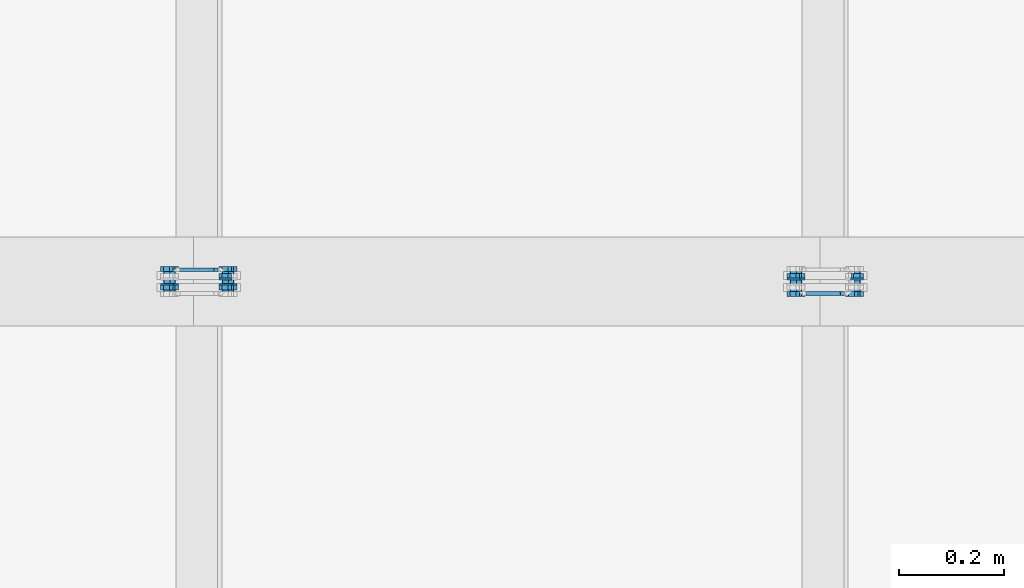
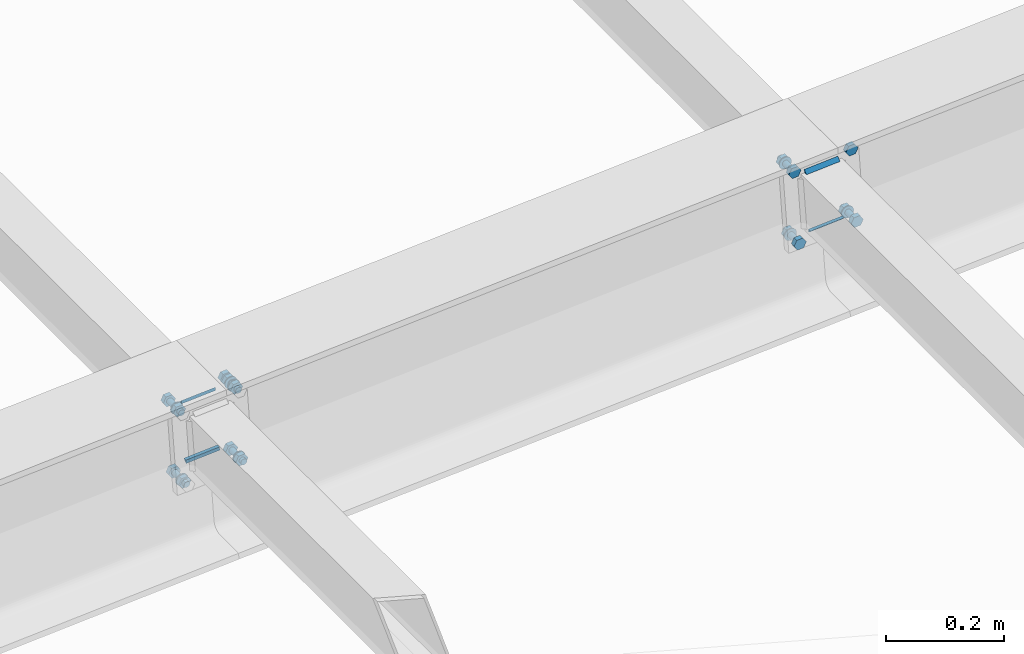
# One storey, part 40 of 72: 31 mechanical fasteners, 8 fasteners.
"""IFC4 building model written with IfcOpenShell, lengths in metres."""

from ifc_helpers import new_model, si_unit, frame, origin_with_axes, place, context, project, spatial, polyline, outline, extrude, type_object, element, save


model = new_model("IFC4")

# Units and contexts
model_context = context("Model", 3, precision=1e-05, world=origin_with_axes())
ifc_project = project(units=[si_unit("LENGTHUNIT", "METRE"), si_unit("AREAUNIT", "SQUARE_METRE"), si_unit("VOLUMEUNIT", "CUBIC_METRE"), si_unit("MASSUNIT", "GRAM", prefix="KILO"), si_unit("TIMEUNIT", "SECOND"), si_unit("PLANEANGLEUNIT", "RADIAN"), si_unit("SOLIDANGLEUNIT", "STERADIAN"), si_unit("THERMODYNAMICTEMPERATUREUNIT", "DEGREE_CELSIUS")], contexts=[model_context])

# Site, building, storey
placement_1 = place(None, origin_with_axes())
site = spatial("IfcSite", under=ifc_project, at=placement_1, Name="Italia", CompositionType="ELEMENT")
building = spatial("IfcBuilding", under=site, at=placement_1, Name="Pensilina", CompositionType="ELEMENT")
storey = spatial("IfcBuildingStorey", under=building, at=placement_1, Name="Storey 0", CompositionType="ELEMENT", Elevation=0.0)

# Mechanical fasteners
mechanical_fastener_type_1 = type_object("IfcMechanicalFastenerType", Name="Collegamento 0402_0401", PredefinedType="BOLT")
placement_2 = place(placement_1, origin_with_axes())
mechanical_fastener_1_placement = place(placement_2, origin_with_axes())
element("IfcMechanicalFastener", 1, at=mechanical_fastener_1_placement, inside=storey, type_object=mechanical_fastener_type_1, Name="Collegamento 0402_0401", NominalDiameter=0.0119998, context=model_context, shape_type="SweptSolid", body=[
    extrude(outline(polyline([(0.0, 0.0, 0.0), (-0.0119727, -0.000808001, 0.0), (-0.0186586, 0.00915694, 0.0), (-0.0133719, 0.0199294, 0.0), (-0.00139904, 0.0207374, 0.0), (0.00528693, 0.0107725, 0.0), (0.0, 0.0, 0.0)])), frame((3.47284, 5.2956, 3.93071), z_axis=(0.0, -1.0, 0.0), x_axis=(1.0, 0.0, 0.0)), (0.0, 0.0, 1.0), 0.00959969),
])
mechanical_fastener_type_2 = type_object("IfcMechanicalFastenerType", Name="Collegamento 0402_0401", PredefinedType="BOLT")
mechanical_fastener_2_placement = place(placement_2, origin_with_axes())
element("IfcMechanicalFastener", 2, at=mechanical_fastener_2_placement, inside=storey, type_object=mechanical_fastener_type_2, Name="Collegamento 0402_0401", NominalDiameter=0.024, context=model_context, shape_type="SweptSolid", body=[
    extrude(outline(polyline([(0.0, 0.0, 0.0), (-0.000408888, -0.00310588, 0.0), (-0.00160789, -0.00600004, 0.0), (-0.00351477, -0.00848532, 0.0), (-0.00600004, -0.0103922, 0.0), (-0.00889421, -0.0115912, 0.0), (-0.0120001, -0.0120001, 0.0), (-0.015106, -0.0115912, 0.0), (-0.0180001, -0.0103922, 0.0), (-0.0204854, -0.00848532, 0.0), (-0.0223923, -0.00600004, 0.0), (-0.0235913, -0.00310588, 0.0), (-0.0240002, 0.0, 0.0), (-0.0235913, 0.00310588, 0.0), (-0.0223923, 0.00600004, 0.0), (-0.0204854, 0.00848532, 0.0), (-0.0180001, 0.0103922, 0.0), (-0.015106, 0.0115912, 0.0), (-0.0120001, 0.0120001, 0.0), (-0.00889421, 0.0115912, 0.0), (-0.00600004, 0.0103922, 0.0), (-0.00351477, 0.00848532, 0.0), (-0.00160789, 0.00600004, 0.0), (-0.000408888, 0.00310588, 0.0), (0.0, 0.0, 0.0)])), frame((3.47816, 5.286, 3.94067), z_axis=(0.0, -1.0, 0.0), x_axis=(1.0, 0.0, 0.0)), (0.0, 0.0, 1.0), 0.00200033),
])

# Fasteners
fastener_type_1 = type_object("IfcFastenerType", Name="Collegamento 0402_0403", PredefinedType="WELD")
fastener_1_placement = place(placement_2, origin_with_axes())
element("IfcFastener", 3, at=fastener_1_placement, inside=storey, type_object=fastener_type_1, Name="Collegamento 0402_0403", context=model_context, shape_type="SweptSolid", body=[
    extrude(outline(polyline([(0.0, 0.0, 0.0), (0.00717354, -0.00695801, 0.0), (0.0, -0.00695801, 0.0), (0.0, 0.0, 0.0)])), frame((3.37792, 5.29895, 3.92561), z_axis=(0.997731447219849, 0.0, 0.067320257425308), x_axis=(0.0, 1.0, 0.0)), (0.0, 0.0, 1.0), 0.0660996),
])
fastener_type_2 = type_object("IfcFastenerType", Name="Collegamento 0402_0403", PredefinedType="WELD")
fastener_2_placement = place(placement_2, origin_with_axes())
element("IfcFastener", 4, at=fastener_2_placement, inside=storey, type_object=fastener_type_2, Name="Collegamento 0402_0403", context=model_context, shape_type="SweptSolid", body=[
    extrude(outline(polyline([(0.0, 0.0, 0.0), (-0.00717354, 0.00695825, 0.0), (0.0, 0.00695825, 0.0), (0.0, 0.0, 0.0)])), frame((3.45288, 5.29895, 3.79654), z_axis=(-0.997731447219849, 0.0, -0.067320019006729), x_axis=(0.0, -1.0, 0.0)), (0.0, 0.0, 1.0), 0.0660999),
])
fastener_type_3 = type_object("IfcFastenerType", Name="Collegamento 0402_0403", PredefinedType="WELD")
fastener_3_placement = place(placement_2, origin_with_axes())
element("IfcFastener", 5, at=fastener_3_placement, inside=storey, type_object=fastener_type_3, Name="Collegamento 0402_0403", context=model_context, shape_type="SweptSolid", body=[
    extrude(outline(polyline([(0.0, 0.0, 0.0), (0.00717354, -0.00695801, 0.0), (0.0, -0.00695801, 0.0), (0.0, 0.0, 0.0)])), frame((3.37792, 5.29895, 3.92561), z_axis=(0.997731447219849, 0.0, 0.067320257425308), x_axis=(0.0, 1.0, 0.0)), (0.0, 0.0, 1.0), 0.0660996),
])
fastener_type_4 = type_object("IfcFastenerType", Name="Collegamento 0402_0403", PredefinedType="WELD")
fastener_4_placement = place(placement_2, origin_with_axes())
element("IfcFastener", 6, at=fastener_4_placement, inside=storey, type_object=fastener_type_4, Name="Collegamento 0402_0403", context=model_context, shape_type="SweptSolid", body=[
    extrude(outline(polyline([(0.0, 0.0, 0.0), (-0.00717354, 0.00695825, 0.0), (0.0, 0.00695825, 0.0), (0.0, 0.0, 0.0)])), frame((3.45288, 5.29895, 3.79654), z_axis=(-0.997731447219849, 0.0, -0.067320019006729), x_axis=(0.0, -1.0, 0.0)), (0.0, 0.0, 1.0), 0.0660999),
])

# Mechanical fasteners
mechanical_fastener_type_3 = type_object("IfcMechanicalFastenerType", Name="Collegamento 0402_0403", PredefinedType="BOLT")
mechanical_fastener_3_placement = place(placement_2, origin_with_axes())
element("IfcMechanicalFastener", 7, at=mechanical_fastener_3_placement, inside=storey, type_object=mechanical_fastener_type_3, Name="Collegamento 0402_0403", NominalDiameter=0.0119998, context=model_context, shape_type="SweptSolid", body=[
    extrude(outline(polyline([(0.0, 0.0, 0.0), (-0.0119727, 0.000807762, 0.0), (-0.0172596, 0.0115805, 0.0), (-0.0105736, 0.0215454, 0.0), (0.00139928, 0.0207374, 0.0), (0.00668597, 0.00996494, 0.0), (0.0, 0.0, 0.0)])), frame((3.4711, 5.299, 3.77825), z_axis=(0.0, 1.0, 0.0), x_axis=(-1.0, 0.0, 0.0)), (0.0, 0.0, 1.0), 0.00960016),
])
mechanical_fastener_type_4 = type_object("IfcMechanicalFastenerType", Name="Collegamento 0402_0403", PredefinedType="BOLT")
mechanical_fastener_4_placement = place(placement_2, origin_with_axes())
element("IfcMechanicalFastener", 8, at=mechanical_fastener_4_placement, inside=storey, type_object=mechanical_fastener_type_4, Name="Collegamento 0402_0403", NominalDiameter=0.012, context=model_context, shape_type="SweptSolid", body=[
    extrude(outline(polyline([(0.0, 0.0, 0.0), (-0.000204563, -0.00155282, 0.0), (-0.000803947, -0.00300002, 0.0), (-0.00175738, -0.00424266, 0.0), (-0.00300002, -0.00519609, 0.0), (-0.00444722, -0.00579548, 0.0), (-0.00600004, -0.00600004, 0.0), (-0.00755286, -0.00579548, 0.0), (-0.00900006, -0.00519609, 0.0), (-0.0102427, -0.00424266, 0.0), (-0.0111961, -0.00300002, 0.0), (-0.0117955, -0.00155282, 0.0), (-0.0120001, 0.0, 0.0), (-0.0117955, 0.00155282, 0.0), (-0.0111961, 0.00300002, 0.0), (-0.0102427, 0.00424266, 0.0), (-0.00900006, 0.00519609, 0.0), (-0.00755286, 0.00579548, 0.0), (-0.00600004, 0.00600004, 0.0), (-0.00444722, 0.00579548, 0.0), (-0.00300002, 0.00519609, 0.0), (-0.00175738, 0.00424266, 0.0), (-0.000803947, 0.00300002, 0.0), (-0.000204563, 0.00155282, 0.0), (0.0, 0.0, 0.0)])), frame((3.47039, 5.258, 3.78902), z_axis=(0.0, 1.0, 0.0), x_axis=(-1.0, 0.0, 0.0)), (0.0, 0.0, 1.0), 0.0409999),
])
mechanical_fastener_type_5 = type_object("IfcMechanicalFastenerType", Name="Collegamento 0402_0403", PredefinedType="BOLT")
mechanical_fastener_5_placement = place(placement_2, origin_with_axes())
element("IfcMechanicalFastener", 9, at=mechanical_fastener_5_placement, inside=storey, type_object=mechanical_fastener_type_5, Name="Collegamento 0402_0403", NominalDiameter=0.0119998, context=model_context, shape_type="SweptSolid", body=[
    extrude(outline(polyline([(0.0, 0.0, 0.0), (-0.0119727, 0.000807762, 0.0), (-0.0172596, 0.0115805, 0.0), (-0.0105736, 0.0215454, 0.0), (0.00139928, 0.0207374, 0.0), (0.00668597, 0.00996494, 0.0), (0.0, 0.0, 0.0)])), frame((3.4711, 5.2644, 3.77825), z_axis=(0.0, 1.0, 0.0), x_axis=(-1.0, 0.0, 0.0)), (0.0, 0.0, 1.0), 0.00959969),
])
mechanical_fastener_type_6 = type_object("IfcMechanicalFastenerType", Name="Collegamento 0402_0403", PredefinedType="BOLT")
mechanical_fastener_6_placement = place(placement_2, origin_with_axes())
element("IfcMechanicalFastener", 10, at=mechanical_fastener_6_placement, inside=storey, type_object=mechanical_fastener_type_6, Name="Collegamento 0402_0403", NominalDiameter=0.024, context=model_context, shape_type="SweptSolid", body=[
    extrude(outline(polyline([(0.0, 0.0, 0.0), (-0.000408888, -0.00310588, 0.0), (-0.00160789, -0.00600004, 0.0), (-0.00351477, -0.00848532, 0.0), (-0.00600004, -0.0103922, 0.0), (-0.00889421, -0.0115912, 0.0), (-0.0120001, -0.0120001, 0.0), (-0.015106, -0.0115912, 0.0), (-0.0180001, -0.0103922, 0.0), (-0.0204854, -0.00848532, 0.0), (-0.0223923, -0.00600004, 0.0), (-0.0235913, -0.00310588, 0.0), (-0.0240002, 0.0, 0.0), (-0.0235913, 0.00310588, 0.0), (-0.0223923, 0.00600004, 0.0), (-0.0204854, 0.00848532, 0.0), (-0.0180001, 0.0103922, 0.0), (-0.015106, 0.0115912, 0.0), (-0.0120001, 0.0120001, 0.0), (-0.00889421, 0.0115912, 0.0), (-0.00600004, 0.0103922, 0.0), (-0.00351477, 0.00848532, 0.0), (-0.00160789, 0.00600004, 0.0), (-0.000408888, 0.00310588, 0.0), (0.0, 0.0, 0.0)])), frame((3.46439, 5.274, 3.78902), z_axis=(0.0, 1.0, 0.0), x_axis=(-1.0, 0.0, 0.0)), (0.0, 0.0, 1.0), 0.00200033),
])
mechanical_fastener_type_7 = type_object("IfcMechanicalFastenerType", Name="Collegamento 0402_0403", PredefinedType="BOLT")
mechanical_fastener_7_placement = place(placement_2, origin_with_axes())
element("IfcMechanicalFastener", 11, at=mechanical_fastener_7_placement, inside=storey, type_object=mechanical_fastener_type_7, Name="Collegamento 0402_0403", NominalDiameter=0.0119998, context=model_context, shape_type="SweptSolid", body=[
    extrude(outline(polyline([(0.0, 0.0, 0.0), (-0.0119729, 0.000808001, 0.0), (-0.0172596, 0.0115805, 0.0), (-0.0105736, 0.0215454, 0.0), (0.00139904, 0.0207376, 0.0), (0.00668597, 0.00996494, 0.0), (0.0, 0.0, 0.0)])), frame((3.35936, 5.299, 3.77071), z_axis=(0.0, 1.0, 0.0), x_axis=(-1.0, 0.0, 0.0)), (0.0, 0.0, 1.0), 0.00960016),
])
mechanical_fastener_type_8 = type_object("IfcMechanicalFastenerType", Name="Collegamento 0402_0403", PredefinedType="BOLT")
mechanical_fastener_8_placement = place(placement_2, origin_with_axes())
element("IfcMechanicalFastener", 12, at=mechanical_fastener_8_placement, inside=storey, type_object=mechanical_fastener_type_8, Name="Collegamento 0402_0403", NominalDiameter=0.012, context=model_context, shape_type="SweptSolid", body=[
    extrude(outline(polyline([(0.0, 0.0, 0.0), (-0.000204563, -0.00155282, 0.0), (-0.000803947, -0.00300002, 0.0), (-0.00175738, -0.00424266, 0.0), (-0.00300002, -0.00519609, 0.0), (-0.00444722, -0.00579548, 0.0), (-0.00600004, -0.00600004, 0.0), (-0.00755286, -0.00579548, 0.0), (-0.00900006, -0.00519609, 0.0), (-0.0102427, -0.00424266, 0.0), (-0.0111961, -0.00300002, 0.0), (-0.0117955, -0.00155282, 0.0), (-0.0120001, 0.0, 0.0), (-0.0117955, 0.00155282, 0.0), (-0.0111961, 0.00300002, 0.0), (-0.0102427, 0.00424266, 0.0), (-0.00900006, 0.00519609, 0.0), (-0.00755286, 0.00579548, 0.0), (-0.00600004, 0.00600004, 0.0), (-0.00444722, 0.00579548, 0.0), (-0.00300002, 0.00519609, 0.0), (-0.00175738, 0.00424266, 0.0), (-0.000803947, 0.00300002, 0.0), (-0.000204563, 0.00155282, 0.0), (0.0, 0.0, 0.0)])), frame((3.35864, 5.258, 3.78148), z_axis=(0.0, 1.0, 0.0), x_axis=(-1.0, 0.0, 0.0)), (0.0, 0.0, 1.0), 0.0409999),
])
mechanical_fastener_type_9 = type_object("IfcMechanicalFastenerType", Name="Collegamento 0402_0403", PredefinedType="BOLT")
mechanical_fastener_9_placement = place(placement_2, origin_with_axes())
element("IfcMechanicalFastener", 13, at=mechanical_fastener_9_placement, inside=storey, type_object=mechanical_fastener_type_9, Name="Collegamento 0402_0403", NominalDiameter=0.0119998, context=model_context, shape_type="SweptSolid", body=[
    extrude(outline(polyline([(0.0, 0.0, 0.0), (-0.0119729, 0.000808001, 0.0), (-0.0172596, 0.0115805, 0.0), (-0.0105736, 0.0215454, 0.0), (0.00139904, 0.0207376, 0.0), (0.00668597, 0.00996494, 0.0), (0.0, 0.0, 0.0)])), frame((3.35936, 5.2644, 3.77071), z_axis=(0.0, 1.0, 0.0), x_axis=(-1.0, 0.0, 0.0)), (0.0, 0.0, 1.0), 0.00959969),
])
mechanical_fastener_type_10 = type_object("IfcMechanicalFastenerType", Name="Collegamento 0402_0403", PredefinedType="BOLT")
mechanical_fastener_10_placement = place(placement_2, origin_with_axes())
element("IfcMechanicalFastener", 14, at=mechanical_fastener_10_placement, inside=storey, type_object=mechanical_fastener_type_10, Name="Collegamento 0402_0403", NominalDiameter=0.024, context=model_context, shape_type="SweptSolid", body=[
    extrude(outline(polyline([(0.0, 0.0, 0.0), (-0.000408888, -0.00310588, 0.0), (-0.00160789, -0.00600004, 0.0), (-0.00351477, -0.00848532, 0.0), (-0.00600004, -0.0103922, 0.0), (-0.00889421, -0.0115912, 0.0), (-0.0120001, -0.0120001, 0.0), (-0.015106, -0.0115912, 0.0), (-0.0180001, -0.0103922, 0.0), (-0.0204854, -0.00848532, 0.0), (-0.0223923, -0.00600004, 0.0), (-0.0235913, -0.00310588, 0.0), (-0.0240002, 0.0, 0.0), (-0.0235913, 0.00310588, 0.0), (-0.0223923, 0.00600004, 0.0), (-0.0204854, 0.00848532, 0.0), (-0.0180001, 0.0103922, 0.0), (-0.015106, 0.0115912, 0.0), (-0.0120001, 0.0120001, 0.0), (-0.00889421, 0.0115912, 0.0), (-0.00600004, 0.0103922, 0.0), (-0.00351477, 0.00848532, 0.0), (-0.00160789, 0.00600004, 0.0), (-0.000408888, 0.00310588, 0.0), (0.0, 0.0, 0.0)])), frame((3.35264, 5.274, 3.78148), z_axis=(0.0, 1.0, 0.0), x_axis=(-1.0, 0.0, 0.0)), (0.0, 0.0, 1.0), 0.00200033),
])
mechanical_fastener_type_11 = type_object("IfcMechanicalFastenerType", Name="Collegamento 0402_0403", PredefinedType="BOLT")
mechanical_fastener_11_placement = place(placement_2, origin_with_axes())
element("IfcMechanicalFastener", 15, at=mechanical_fastener_11_placement, inside=storey, type_object=mechanical_fastener_type_11, Name="Collegamento 0402_0403", NominalDiameter=0.0119998, context=model_context, shape_type="SweptSolid", body=[
    extrude(outline(polyline([(0.0, 0.0, 0.0), (-0.0119727, 0.000808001, 0.0), (-0.0172596, 0.0115805, 0.0), (-0.0105736, 0.0215454, 0.0), (0.00139928, 0.0207374, 0.0), (0.00668597, 0.00996494, 0.0), (0.0, 0.0, 0.0)])), frame((3.46087, 5.299, 3.9299), z_axis=(0.0, 1.0, 0.0), x_axis=(-1.0, 0.0, 0.0)), (0.0, 0.0, 1.0), 0.00960016),
])
mechanical_fastener_type_12 = type_object("IfcMechanicalFastenerType", Name="Collegamento 0402_0403", PredefinedType="BOLT")
mechanical_fastener_12_placement = place(placement_2, origin_with_axes())
element("IfcMechanicalFastener", 16, at=mechanical_fastener_12_placement, inside=storey, type_object=mechanical_fastener_type_12, Name="Collegamento 0402_0403", NominalDiameter=0.012, context=model_context, shape_type="SweptSolid", body=[
    extrude(outline(polyline([(0.0, 0.0, 0.0), (-0.000204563, -0.00155282, 0.0), (-0.000803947, -0.00300002, 0.0), (-0.00175738, -0.00424266, 0.0), (-0.00300002, -0.00519609, 0.0), (-0.00444722, -0.00579548, 0.0), (-0.00600004, -0.00600004, 0.0), (-0.00755286, -0.00579548, 0.0), (-0.00900006, -0.00519609, 0.0), (-0.0102427, -0.00424266, 0.0), (-0.0111961, -0.00300002, 0.0), (-0.0117955, -0.00155282, 0.0), (-0.0120001, 0.0, 0.0), (-0.0117955, 0.00155282, 0.0), (-0.0111961, 0.00300002, 0.0), (-0.0102427, 0.00424266, 0.0), (-0.00900006, 0.00519609, 0.0), (-0.00755286, 0.00579548, 0.0), (-0.00600004, 0.00600004, 0.0), (-0.00444722, 0.00579548, 0.0), (-0.00300002, 0.00519609, 0.0), (-0.00175738, 0.00424266, 0.0), (-0.000803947, 0.00300002, 0.0), (-0.000204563, 0.00155282, 0.0), (0.0, 0.0, 0.0)])), frame((3.46016, 5.258, 3.94067), z_axis=(0.0, 1.0, 0.0), x_axis=(-1.0, 0.0, 0.0)), (0.0, 0.0, 1.0), 0.0409999),
])
mechanical_fastener_type_13 = type_object("IfcMechanicalFastenerType", Name="Collegamento 0402_0403", PredefinedType="BOLT")
mechanical_fastener_13_placement = place(placement_2, origin_with_axes())
element("IfcMechanicalFastener", 17, at=mechanical_fastener_13_placement, inside=storey, type_object=mechanical_fastener_type_13, Name="Collegamento 0402_0403", NominalDiameter=0.0119998, context=model_context, shape_type="SweptSolid", body=[
    extrude(outline(polyline([(0.0, 0.0, 0.0), (-0.0119727, 0.000808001, 0.0), (-0.0172596, 0.0115805, 0.0), (-0.0105736, 0.0215454, 0.0), (0.00139928, 0.0207374, 0.0), (0.00668597, 0.00996494, 0.0), (0.0, 0.0, 0.0)])), frame((3.46087, 5.2644, 3.9299), z_axis=(0.0, 1.0, 0.0), x_axis=(-1.0, 0.0, 0.0)), (0.0, 0.0, 1.0), 0.00959969),
])
mechanical_fastener_type_14 = type_object("IfcMechanicalFastenerType", Name="Collegamento 0402_0403", PredefinedType="BOLT")
mechanical_fastener_14_placement = place(placement_2, origin_with_axes())
element("IfcMechanicalFastener", 18, at=mechanical_fastener_14_placement, inside=storey, type_object=mechanical_fastener_type_14, Name="Collegamento 0402_0403", NominalDiameter=0.024, context=model_context, shape_type="SweptSolid", body=[
    extrude(outline(polyline([(0.0, 0.0, 0.0), (-0.000408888, -0.00310588, 0.0), (-0.00160789, -0.00600004, 0.0), (-0.00351477, -0.00848532, 0.0), (-0.00600004, -0.0103922, 0.0), (-0.00889421, -0.0115912, 0.0), (-0.0120001, -0.0120001, 0.0), (-0.015106, -0.0115912, 0.0), (-0.0180001, -0.0103922, 0.0), (-0.0204854, -0.00848532, 0.0), (-0.0223923, -0.00600004, 0.0), (-0.0235913, -0.00310588, 0.0), (-0.0240002, 0.0, 0.0), (-0.0235913, 0.00310588, 0.0), (-0.0223923, 0.00600004, 0.0), (-0.0204854, 0.00848532, 0.0), (-0.0180001, 0.0103922, 0.0), (-0.015106, 0.0115912, 0.0), (-0.0120001, 0.0120001, 0.0), (-0.00889421, 0.0115912, 0.0), (-0.00600004, 0.0103922, 0.0), (-0.00351477, 0.00848532, 0.0), (-0.00160789, 0.00600004, 0.0), (-0.000408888, 0.00310588, 0.0), (0.0, 0.0, 0.0)])), frame((3.45416, 5.274, 3.94067), z_axis=(0.0, 1.0, 0.0), x_axis=(-1.0, 0.0, 0.0)), (0.0, 0.0, 1.0), 0.00200033),
])
mechanical_fastener_type_15 = type_object("IfcMechanicalFastenerType", Name="Collegamento 0402_0403", PredefinedType="BOLT")
mechanical_fastener_15_placement = place(placement_2, origin_with_axes())
element("IfcMechanicalFastener", 19, at=mechanical_fastener_15_placement, inside=storey, type_object=mechanical_fastener_type_15, Name="Collegamento 0402_0403", NominalDiameter=0.0119998, context=model_context, shape_type="SweptSolid", body=[
    extrude(outline(polyline([(0.0, 0.0, 0.0), (-0.0119729, 0.000808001, 0.0), (-0.0172596, 0.0115805, 0.0), (-0.0105736, 0.0215454, 0.0), (0.00139904, 0.0207376, 0.0), (0.00668597, 0.00996494, 0.0), (0.0, 0.0, 0.0)])), frame((3.34912, 5.299, 3.92236), z_axis=(0.0, 1.0, 0.0), x_axis=(-1.0, 0.0, 0.0)), (0.0, 0.0, 1.0), 0.00960016),
])
mechanical_fastener_type_16 = type_object("IfcMechanicalFastenerType", Name="Collegamento 0402_0403", PredefinedType="BOLT")
mechanical_fastener_16_placement = place(placement_2, origin_with_axes())
element("IfcMechanicalFastener", 20, at=mechanical_fastener_16_placement, inside=storey, type_object=mechanical_fastener_type_16, Name="Collegamento 0402_0403", NominalDiameter=0.012, context=model_context, shape_type="SweptSolid", body=[
    extrude(outline(polyline([(0.0, 0.0, 0.0), (-0.000204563, -0.00155282, 0.0), (-0.000803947, -0.00300002, 0.0), (-0.00175738, -0.00424266, 0.0), (-0.00300002, -0.00519609, 0.0), (-0.00444722, -0.00579548, 0.0), (-0.00600004, -0.00600004, 0.0), (-0.00755286, -0.00579548, 0.0), (-0.00900006, -0.00519609, 0.0), (-0.0102427, -0.00424266, 0.0), (-0.0111961, -0.00300002, 0.0), (-0.0117955, -0.00155282, 0.0), (-0.0120001, 0.0, 0.0), (-0.0117955, 0.00155282, 0.0), (-0.0111961, 0.00300002, 0.0), (-0.0102427, 0.00424266, 0.0), (-0.00900006, 0.00519609, 0.0), (-0.00755286, 0.00579548, 0.0), (-0.00600004, 0.00600004, 0.0), (-0.00444722, 0.00579548, 0.0), (-0.00300002, 0.00519609, 0.0), (-0.00175738, 0.00424266, 0.0), (-0.000803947, 0.00300002, 0.0), (-0.000204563, 0.00155282, 0.0), (0.0, 0.0, 0.0)])), frame((3.34841, 5.258, 3.93313), z_axis=(0.0, 1.0, 0.0), x_axis=(-1.0, 0.0, 0.0)), (0.0, 0.0, 1.0), 0.0409999),
])
mechanical_fastener_type_17 = type_object("IfcMechanicalFastenerType", Name="Collegamento 0402_0403", PredefinedType="BOLT")
mechanical_fastener_17_placement = place(placement_2, origin_with_axes())
element("IfcMechanicalFastener", 21, at=mechanical_fastener_17_placement, inside=storey, type_object=mechanical_fastener_type_17, Name="Collegamento 0402_0403", NominalDiameter=0.0119998, context=model_context, shape_type="SweptSolid", body=[
    extrude(outline(polyline([(0.0, 0.0, 0.0), (-0.0119729, 0.000808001, 0.0), (-0.0172596, 0.0115805, 0.0), (-0.0105736, 0.0215454, 0.0), (0.00139904, 0.0207376, 0.0), (0.00668597, 0.00996494, 0.0), (0.0, 0.0, 0.0)])), frame((3.34912, 5.2644, 3.92236), z_axis=(0.0, 1.0, 0.0), x_axis=(-1.0, 0.0, 0.0)), (0.0, 0.0, 1.0), 0.00959969),
])
mechanical_fastener_type_18 = type_object("IfcMechanicalFastenerType", Name="Collegamento 0402_0403", PredefinedType="BOLT")
mechanical_fastener_18_placement = place(placement_2, origin_with_axes())
element("IfcMechanicalFastener", 22, at=mechanical_fastener_18_placement, inside=storey, type_object=mechanical_fastener_type_18, Name="Collegamento 0402_0403", NominalDiameter=0.024, context=model_context, shape_type="SweptSolid", body=[
    extrude(outline(polyline([(0.0, 0.0, 0.0), (-0.000408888, -0.00310588, 0.0), (-0.00160789, -0.00600004, 0.0), (-0.00351477, -0.00848532, 0.0), (-0.00600004, -0.0103922, 0.0), (-0.00889421, -0.0115912, 0.0), (-0.0120001, -0.0120001, 0.0), (-0.015106, -0.0115912, 0.0), (-0.0180001, -0.0103922, 0.0), (-0.0204854, -0.00848532, 0.0), (-0.0223923, -0.00600004, 0.0), (-0.0235913, -0.00310588, 0.0), (-0.0240002, 0.0, 0.0), (-0.0235913, 0.00310588, 0.0), (-0.0223923, 0.00600004, 0.0), (-0.0204854, 0.00848532, 0.0), (-0.0180001, 0.0103922, 0.0), (-0.015106, 0.0115912, 0.0), (-0.0120001, 0.0120001, 0.0), (-0.00889421, 0.0115912, 0.0), (-0.00600004, 0.0103922, 0.0), (-0.00351477, 0.00848532, 0.0), (-0.00160789, 0.00600004, 0.0), (-0.000408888, 0.00310588, 0.0), (0.0, 0.0, 0.0)])), frame((3.34241, 5.274, 3.93313), z_axis=(0.0, 1.0, 0.0), x_axis=(-1.0, 0.0, 0.0)), (0.0, 0.0, 1.0), 0.00200033),
])

# Fasteners
fastener_type_5 = type_object("IfcFastenerType", Name="Collegamento 0502_0501", PredefinedType="WELD")
fastener_5_placement = place(placement_2, origin_with_axes())
element("IfcFastener", 23, at=fastener_5_placement, inside=storey, type_object=fastener_type_5, Name="Collegamento 0502_0501", context=model_context, shape_type="SweptSolid", body=[
    extrude(outline(polyline([(0.0, 0.0, 0.0), (0.00717354, -0.00695872, 0.0), (0.0, -0.00695872, 0.0), (0.0, 0.0, 0.0)])), frame((4.64108, 5.26105, 4.01231), z_axis=(-0.997731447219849, 0.0, -0.06731953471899), x_axis=(0.0, -1.0, 0.0)), (0.0, 0.0, 1.0), 0.0661003),
])
fastener_type_6 = type_object("IfcFastenerType", Name="Collegamento 0502_0501", PredefinedType="WELD")
fastener_6_placement = place(placement_2, origin_with_axes())
element("IfcFastener", 24, at=fastener_6_placement, inside=storey, type_object=fastener_type_6, Name="Collegamento 0502_0501", context=model_context, shape_type="SweptSolid", body=[
    extrude(outline(polyline([(0.0, 0.0, 0.0), (-0.00717354, 0.00695825, 0.0), (0.0, 0.00695825, 0.0), (0.0, 0.0, 0.0)])), frame((4.58414, 5.26105, 3.87435), z_axis=(0.99773120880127, 0.0, 0.067323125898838), x_axis=(0.0, 1.0, 0.0)), (0.0, 0.0, 1.0), 0.0661004),
])
fastener_type_7 = type_object("IfcFastenerType", Name="Collegamento 0502_0501", PredefinedType="WELD")
fastener_7_placement = place(placement_2, origin_with_axes())
element("IfcFastener", 25, at=fastener_7_placement, inside=storey, type_object=fastener_type_7, Name="Collegamento 0502_0501", context=model_context, shape_type="SweptSolid", body=[
    extrude(outline(polyline([(0.0, 0.0, 0.0), (0.00717354, -0.00695872, 0.0), (0.0, -0.00695872, 0.0), (0.0, 0.0, 0.0)])), frame((4.64108, 5.26105, 4.01231), z_axis=(-0.997731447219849, 0.0, -0.06731953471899), x_axis=(0.0, -1.0, 0.0)), (0.0, 0.0, 1.0), 0.0661003),
])
fastener_type_8 = type_object("IfcFastenerType", Name="Collegamento 0502_0501", PredefinedType="WELD")
fastener_8_placement = place(placement_2, origin_with_axes())
element("IfcFastener", 26, at=fastener_8_placement, inside=storey, type_object=fastener_type_8, Name="Collegamento 0502_0501", context=model_context, shape_type="SweptSolid", body=[
    extrude(outline(polyline([(0.0, 0.0, 0.0), (-0.00717354, 0.00695825, 0.0), (0.0, 0.00695825, 0.0), (0.0, 0.0, 0.0)])), frame((4.58414, 5.26105, 3.87435), z_axis=(0.99773120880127, 0.0, 0.067323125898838), x_axis=(0.0, 1.0, 0.0)), (0.0, 0.0, 1.0), 0.0661004),
])

# Mechanical fasteners
mechanical_fastener_type_19 = type_object("IfcMechanicalFastenerType", Name="Collegamento 0502_0501", PredefinedType="BOLT")
mechanical_fastener_19_placement = place(placement_2, origin_with_axes())
element("IfcMechanicalFastener", 27, at=mechanical_fastener_19_placement, inside=storey, type_object=mechanical_fastener_type_19, Name="Collegamento 0502_0501", NominalDiameter=0.0119998, context=model_context, shape_type="SweptSolid", body=[
    extrude(outline(polyline([(0.0, 0.0, 0.0), (-0.0119729, -0.000808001, 0.0), (-0.0186586, 0.00915694, 0.0), (-0.0133719, 0.0199296, 0.0), (-0.00139904, 0.0207374, 0.0), (0.00528669, 0.0107725, 0.0), (0.0, 0.0, 0.0)])), frame((4.56854, 5.261, 3.85376), z_axis=(0.0, -1.0, 0.0), x_axis=(1.0, 0.0, 0.0)), (0.0, 0.0, 1.0), 0.00960016),
])
mechanical_fastener_type_20 = type_object("IfcMechanicalFastenerType", Name="Collegamento 0502_0501", PredefinedType="BOLT")
mechanical_fastener_20_placement = place(placement_2, origin_with_axes())
element("IfcMechanicalFastener", 28, at=mechanical_fastener_20_placement, inside=storey, type_object=mechanical_fastener_type_20, Name="Collegamento 0502_0501", NominalDiameter=0.012, context=model_context, shape_type="SweptSolid", body=[
    extrude(outline(polyline([(0.0, 0.0, 0.0), (-0.000204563, -0.00155282, 0.0), (-0.000803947, -0.00300002, 0.0), (-0.00175762, -0.00424266, 0.0), (-0.00300026, -0.00519609, 0.0), (-0.00444698, -0.00579548, 0.0), (-0.00600004, -0.00600004, 0.0), (-0.0075531, -0.00579548, 0.0), (-0.00899982, -0.00519609, 0.0), (-0.0102425, -0.00424266, 0.0), (-0.0111961, -0.00300002, 0.0), (-0.0117955, -0.00155282, 0.0), (-0.0120001, 0.0, 0.0), (-0.0117955, 0.00155282, 0.0), (-0.0111961, 0.00300002, 0.0), (-0.0102425, 0.00424266, 0.0), (-0.00899982, 0.00519609, 0.0), (-0.0075531, 0.00579548, 0.0), (-0.00600004, 0.00600004, 0.0), (-0.00444698, 0.00579548, 0.0), (-0.00300026, 0.00519609, 0.0), (-0.00175762, 0.00424266, 0.0), (-0.000803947, 0.00300002, 0.0), (-0.000204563, 0.00155282, 0.0), (0.0, 0.0, 0.0)])), frame((4.56785, 5.302, 3.86373), z_axis=(0.0, -1.0, 0.0), x_axis=(1.0, 0.0, 0.0)), (0.0, 0.0, 1.0), 0.0409999),
])
mechanical_fastener_type_21 = type_object("IfcMechanicalFastenerType", Name="Collegamento 0502_0501", PredefinedType="BOLT")
mechanical_fastener_21_placement = place(placement_2, origin_with_axes())
element("IfcMechanicalFastener", 29, at=mechanical_fastener_21_placement, inside=storey, type_object=mechanical_fastener_type_21, Name="Collegamento 0502_0501", NominalDiameter=0.0119998, context=model_context, shape_type="SweptSolid", body=[
    extrude(outline(polyline([(0.0, 0.0, 0.0), (-0.0119729, -0.000808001, 0.0), (-0.0186586, 0.00915694, 0.0), (-0.0133719, 0.0199296, 0.0), (-0.00139904, 0.0207374, 0.0), (0.00528669, 0.0107725, 0.0), (0.0, 0.0, 0.0)])), frame((4.56854, 5.2956, 3.85376), z_axis=(0.0, -1.0, 0.0), x_axis=(1.0, 0.0, 0.0)), (0.0, 0.0, 1.0), 0.00959969),
])
mechanical_fastener_type_22 = type_object("IfcMechanicalFastenerType", Name="Collegamento 0502_0501", PredefinedType="BOLT")
mechanical_fastener_22_placement = place(placement_2, origin_with_axes())
element("IfcMechanicalFastener", 30, at=mechanical_fastener_22_placement, inside=storey, type_object=mechanical_fastener_type_22, Name="Collegamento 0502_0501", NominalDiameter=0.024, context=model_context, shape_type="SweptSolid", body=[
    extrude(outline(polyline([(0.0, 0.0, 0.0), (-0.000409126, -0.00310588, 0.0), (-0.00160789, -0.00600004, 0.0), (-0.00351477, -0.00848532, 0.0), (-0.00600004, -0.0103922, 0.0), (-0.00889444, -0.0115912, 0.0), (-0.0120001, -0.0120001, 0.0), (-0.0151057, -0.0115912, 0.0), (-0.0180001, -0.0103922, 0.0), (-0.0204854, -0.00848532, 0.0), (-0.0223923, -0.00600004, 0.0), (-0.023591, -0.00310588, 0.0), (-0.0240002, 0.0, 0.0), (-0.023591, 0.00310588, 0.0), (-0.0223923, 0.00600004, 0.0), (-0.0204854, 0.00848532, 0.0), (-0.0180001, 0.0103922, 0.0), (-0.0151057, 0.0115912, 0.0), (-0.0120001, 0.0120001, 0.0), (-0.00889444, 0.0115912, 0.0), (-0.00600004, 0.0103922, 0.0), (-0.00351477, 0.00848532, 0.0), (-0.00160789, 0.00600004, 0.0), (-0.000409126, 0.00310588, 0.0), (0.0, 0.0, 0.0)])), frame((4.57385, 5.286, 3.86373), z_axis=(0.0, -1.0, 0.0), x_axis=(1.0, 0.0, 0.0)), (0.0, 0.0, 1.0), 0.00200033),
])
mechanical_fastener_type_23 = type_object("IfcMechanicalFastenerType", Name="Collegamento 0502_0501", PredefinedType="BOLT")
mechanical_fastener_23_placement = place(placement_2, origin_with_axes())
element("IfcMechanicalFastener", 31, at=mechanical_fastener_23_placement, inside=storey, type_object=mechanical_fastener_type_23, Name="Collegamento 0502_0501", NominalDiameter=0.0119998, context=model_context, shape_type="SweptSolid", body=[
    extrude(outline(polyline([(0.0, 0.0, 0.0), (-0.0119729, -0.000807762, 0.0), (-0.0186586, 0.00915718, 0.0), (-0.0133719, 0.0199296, 0.0), (-0.00139904, 0.0207376, 0.0), (0.00528669, 0.0107727, 0.0), (0.0, 0.0, 0.0)])), frame((4.68028, 5.261, 3.8613), z_axis=(0.0, -1.0, 0.0), x_axis=(1.0, 0.0, 0.0)), (0.0, 0.0, 1.0), 0.00960016),
])
mechanical_fastener_type_24 = type_object("IfcMechanicalFastenerType", Name="Collegamento 0502_0501", PredefinedType="BOLT")
mechanical_fastener_24_placement = place(placement_2, origin_with_axes())
element("IfcMechanicalFastener", 32, at=mechanical_fastener_24_placement, inside=storey, type_object=mechanical_fastener_type_24, Name="Collegamento 0502_0501", NominalDiameter=0.012, context=model_context, shape_type="SweptSolid", body=[
    extrude(outline(polyline([(0.0, 0.0, 0.0), (-0.000204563, -0.00155282, 0.0), (-0.000803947, -0.00300002, 0.0), (-0.00175762, -0.00424266, 0.0), (-0.00300026, -0.00519609, 0.0), (-0.00444698, -0.00579548, 0.0), (-0.00600004, -0.00600004, 0.0), (-0.0075531, -0.00579548, 0.0), (-0.00899982, -0.00519609, 0.0), (-0.0102425, -0.00424266, 0.0), (-0.0111961, -0.00300002, 0.0), (-0.0117955, -0.00155282, 0.0), (-0.0120001, 0.0, 0.0), (-0.0117955, 0.00155282, 0.0), (-0.0111961, 0.00300002, 0.0), (-0.0102425, 0.00424266, 0.0), (-0.00899982, 0.00519609, 0.0), (-0.0075531, 0.00579548, 0.0), (-0.00600004, 0.00600004, 0.0), (-0.00444698, 0.00579548, 0.0), (-0.00300026, 0.00519609, 0.0), (-0.00175762, 0.00424266, 0.0), (-0.000803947, 0.00300002, 0.0), (-0.000204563, 0.00155282, 0.0), (0.0, 0.0, 0.0)])), frame((4.6796, 5.302, 3.87127), z_axis=(0.0, -1.0, 0.0), x_axis=(1.0, 0.0, 0.0)), (0.0, 0.0, 1.0), 0.0409999),
])
mechanical_fastener_type_25 = type_object("IfcMechanicalFastenerType", Name="Collegamento 0502_0501", PredefinedType="BOLT")
mechanical_fastener_25_placement = place(placement_2, origin_with_axes())
element("IfcMechanicalFastener", 33, at=mechanical_fastener_25_placement, inside=storey, type_object=mechanical_fastener_type_25, Name="Collegamento 0502_0501", NominalDiameter=0.0119998, context=model_context, shape_type="SweptSolid", body=[
    extrude(outline(polyline([(0.0, 0.0, 0.0), (-0.0119729, -0.000807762, 0.0), (-0.0186586, 0.00915718, 0.0), (-0.0133719, 0.0199296, 0.0), (-0.00139904, 0.0207376, 0.0), (0.00528669, 0.0107727, 0.0), (0.0, 0.0, 0.0)])), frame((4.68028, 5.2956, 3.8613), z_axis=(0.0, -1.0, 0.0), x_axis=(1.0, 0.0, 0.0)), (0.0, 0.0, 1.0), 0.00959969),
])
mechanical_fastener_type_26 = type_object("IfcMechanicalFastenerType", Name="Collegamento 0502_0501", PredefinedType="BOLT")
mechanical_fastener_26_placement = place(placement_2, origin_with_axes())
element("IfcMechanicalFastener", 34, at=mechanical_fastener_26_placement, inside=storey, type_object=mechanical_fastener_type_26, Name="Collegamento 0502_0501", NominalDiameter=0.024, context=model_context, shape_type="SweptSolid", body=[
    extrude(outline(polyline([(0.0, 0.0, 0.0), (-0.000409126, -0.00310588, 0.0), (-0.00160789, -0.00600004, 0.0), (-0.00351477, -0.00848532, 0.0), (-0.00600004, -0.0103922, 0.0), (-0.00889444, -0.0115912, 0.0), (-0.0120001, -0.0120001, 0.0), (-0.0151057, -0.0115912, 0.0), (-0.0180001, -0.0103922, 0.0), (-0.0204854, -0.00848532, 0.0), (-0.0223923, -0.00600004, 0.0), (-0.023591, -0.00310588, 0.0), (-0.0240002, 0.0, 0.0), (-0.023591, 0.00310588, 0.0), (-0.0223923, 0.00600004, 0.0), (-0.0204854, 0.00848532, 0.0), (-0.0180001, 0.0103922, 0.0), (-0.0151057, 0.0115912, 0.0), (-0.0120001, 0.0120001, 0.0), (-0.00889444, 0.0115912, 0.0), (-0.00600004, 0.0103922, 0.0), (-0.00351477, 0.00848532, 0.0), (-0.00160789, 0.00600004, 0.0), (-0.000409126, 0.00310588, 0.0), (0.0, 0.0, 0.0)])), frame((4.6856, 5.286, 3.87127), z_axis=(0.0, -1.0, 0.0), x_axis=(1.0, 0.0, 0.0)), (0.0, 0.0, 1.0), 0.00200033),
])
mechanical_fastener_type_27 = type_object("IfcMechanicalFastenerType", Name="Collegamento 0502_0501", PredefinedType="BOLT")
mechanical_fastener_27_placement = place(placement_2, origin_with_axes())
element("IfcMechanicalFastener", 35, at=mechanical_fastener_27_placement, inside=storey, type_object=mechanical_fastener_type_27, Name="Collegamento 0502_0501", NominalDiameter=0.012, context=model_context, shape_type="SweptSolid", body=[
    extrude(outline(polyline([(0.0, 0.0, 0.0), (-0.0119729, -0.000807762, 0.0), (-0.0186586, 0.00915718, 0.0), (-0.0133719, 0.0199299, 0.0), (-0.00139904, 0.0207376, 0.0), (0.00528669, 0.0107727, 0.0), (0.0, 0.0, 0.0)])), frame((4.5583, 5.261, 4.00542), z_axis=(0.0, -1.0, 0.0), x_axis=(1.0, 0.0, 0.0)), (0.0, 0.0, 1.0), 0.00960016),
])
mechanical_fastener_type_28 = type_object("IfcMechanicalFastenerType", Name="Collegamento 0502_0501", PredefinedType="BOLT")
mechanical_fastener_28_placement = place(placement_2, origin_with_axes())
element("IfcMechanicalFastener", 36, at=mechanical_fastener_28_placement, inside=storey, type_object=mechanical_fastener_type_28, Name="Collegamento 0502_0501", NominalDiameter=0.012, context=model_context, shape_type="SweptSolid", body=[
    extrude(outline(polyline([(0.0, 0.0, 0.0), (-0.000204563, -0.00155306, 0.0), (-0.000803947, -0.00299978, 0.0), (-0.00175762, -0.00424242, 0.0), (-0.00300026, -0.00519609, 0.0), (-0.00444698, -0.00579548, 0.0), (-0.00600004, -0.00600004, 0.0), (-0.0075531, -0.00579548, 0.0), (-0.00899982, -0.00519609, 0.0), (-0.0102425, -0.00424242, 0.0), (-0.0111961, -0.00299978, 0.0), (-0.0117955, -0.00155306, 0.0), (-0.0120001, 0.0, 0.0), (-0.0117955, 0.00155306, 0.0), (-0.0111961, 0.00299978, 0.0), (-0.0102425, 0.00424242, 0.0), (-0.00899982, 0.00519609, 0.0), (-0.0075531, 0.00579548, 0.0), (-0.00600004, 0.00600004, 0.0), (-0.00444698, 0.00579548, 0.0), (-0.00300026, 0.00519609, 0.0), (-0.00175762, 0.00424242, 0.0), (-0.000803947, 0.00299978, 0.0), (-0.000204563, 0.00155306, 0.0), (0.0, 0.0, 0.0)])), frame((4.55762, 5.302, 4.01538), z_axis=(0.0, -1.0, 0.0), x_axis=(1.0, 0.0, 0.0)), (0.0, 0.0, 1.0), 0.0409999),
])
mechanical_fastener_type_29 = type_object("IfcMechanicalFastenerType", Name="Collegamento 0502_0501", PredefinedType="BOLT")
mechanical_fastener_29_placement = place(placement_2, origin_with_axes())
element("IfcMechanicalFastener", 37, at=mechanical_fastener_29_placement, inside=storey, type_object=mechanical_fastener_type_29, Name="Collegamento 0502_0501", NominalDiameter=0.012, context=model_context, shape_type="SweptSolid", body=[
    extrude(outline(polyline([(0.0, 0.0, 0.0), (-0.0119729, -0.000807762, 0.0), (-0.0186586, 0.00915718, 0.0), (-0.0133719, 0.0199299, 0.0), (-0.00139904, 0.0207376, 0.0), (0.00528669, 0.0107727, 0.0), (0.0, 0.0, 0.0)])), frame((4.5583, 5.2956, 4.00542), z_axis=(0.0, -1.0, 0.0), x_axis=(1.0, 0.0, 0.0)), (0.0, 0.0, 1.0), 0.00959969),
])
mechanical_fastener_type_30 = type_object("IfcMechanicalFastenerType", Name="Collegamento 0502_0501", PredefinedType="BOLT")
mechanical_fastener_30_placement = place(placement_2, origin_with_axes())
element("IfcMechanicalFastener", 38, at=mechanical_fastener_30_placement, inside=storey, type_object=mechanical_fastener_type_30, Name="Collegamento 0502_0501", NominalDiameter=0.024, context=model_context, shape_type="SweptSolid", body=[
    extrude(outline(polyline([(0.0, 0.0, 0.0), (-0.000409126, -0.00310564, 0.0), (-0.00160789, -0.00600004, 0.0), (-0.00351477, -0.00848532, 0.0), (-0.00600004, -0.0103922, 0.0), (-0.00889444, -0.011591, 0.0), (-0.0120001, -0.0120001, 0.0), (-0.0151057, -0.011591, 0.0), (-0.0180001, -0.0103922, 0.0), (-0.0204854, -0.00848532, 0.0), (-0.0223923, -0.00600004, 0.0), (-0.023591, -0.00310564, 0.0), (-0.0240002, 0.0, 0.0), (-0.023591, 0.00310564, 0.0), (-0.0223923, 0.00600004, 0.0), (-0.0204854, 0.00848532, 0.0), (-0.0180001, 0.0103922, 0.0), (-0.0151057, 0.011591, 0.0), (-0.0120001, 0.0120001, 0.0), (-0.00889444, 0.011591, 0.0), (-0.00600004, 0.0103922, 0.0), (-0.00351477, 0.00848532, 0.0), (-0.00160789, 0.00600004, 0.0), (-0.000409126, 0.00310564, 0.0), (0.0, 0.0, 0.0)])), frame((4.56362, 5.286, 4.01538), z_axis=(0.0, -1.0, 0.0), x_axis=(1.0, 0.0, 0.0)), (0.0, 0.0, 1.0), 0.00200033),
])
mechanical_fastener_type_31 = type_object("IfcMechanicalFastenerType", Name="Collegamento 0502_0501", PredefinedType="BOLT")
mechanical_fastener_31_placement = place(placement_2, origin_with_axes())
element("IfcMechanicalFastener", 39, at=mechanical_fastener_31_placement, inside=storey, type_object=mechanical_fastener_type_31, Name="Collegamento 0502_0501", NominalDiameter=0.012, context=model_context, shape_type="SweptSolid", body=[
    extrude(outline(polyline([(0.0, 0.0, 0.0), (-0.0119729, -0.000807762, 0.0), (-0.0186586, 0.00915718, 0.0), (-0.0133719, 0.0199299, 0.0), (-0.00139904, 0.0207376, 0.0), (0.00528669, 0.0107727, 0.0), (0.0, 0.0, 0.0)])), frame((4.67005, 5.261, 4.01296), z_axis=(0.0, -1.0, 0.0), x_axis=(1.0, 0.0, 0.0)), (0.0, 0.0, 1.0), 0.00960016),
])

save(model, "model.ifc")
